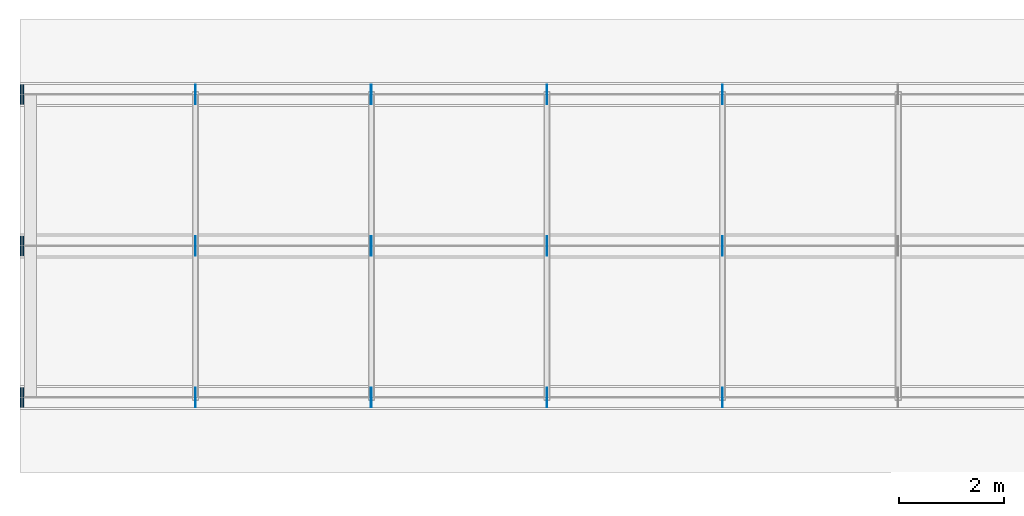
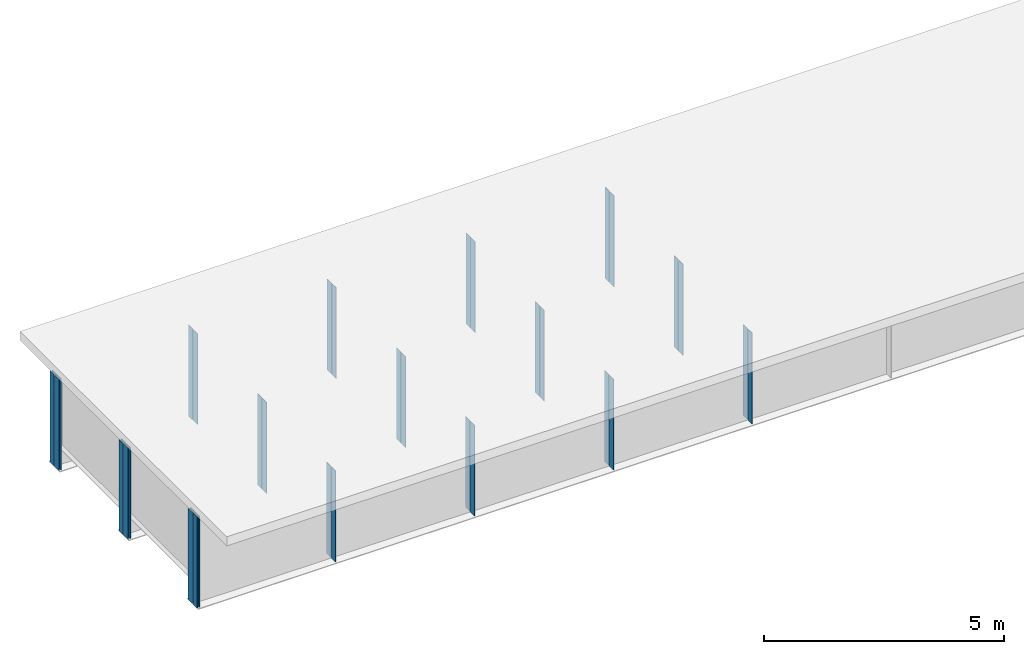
# One storey, part 2 of 12: 36 plates.
"""IFC4 building model written with IfcOpenShell, lengths in metres."""

import ifcopenshell
import ifcopenshell.guid

model = None  # the IFC model being written
_history = None  # IfcOwnerHistory: only IFC2X3 demands one
_inside = {}  # id of a spatial element -> (the spatial element, [elements in it])
_under = {}  # id of a project, library or spatial element -> (it, [spatial elements below it])
_declared = {}  # id of a project -> (the project, [libraries it declares])
_typed = {}  # id of a type object -> (the type object, [elements of that type])
_made_of = {}  # id of a material, layer set ... -> (it, [elements and type objects made of it])


def new_model(schema):
    """Start an empty IFC model of exactly this schema.

    Asked for "IFC4X3", IfcOpenShell would pick the latest addendum, in which some entities
    have other attributes; the version numbers below select the first issue.
    IFC2X3 requires an IfcOwnerHistory on every rooted entity: one is made here for all.
    """
    global model, _history
    if schema == "IFC4X3":
        model = ifcopenshell.file(schema_version=(4, 3, 0, 0))
    else:
        model = ifcopenshell.file(schema=schema)
    _inside.clear()
    _under.clear()
    _declared.clear()
    _typed.clear()
    _made_of.clear()
    _history = None
    if model.schema == "IFC2X3":
        org = make("IfcOrganization", Name="unknown")
        user = make(
            "IfcPersonAndOrganization",
            ThePerson=make("IfcPerson", FamilyName="unknown"),
            TheOrganization=org,
        )
        app = make(
            "IfcApplication",
            ApplicationDeveloper=org,
            Version="unknown",
            ApplicationFullName="unknown",
            ApplicationIdentifier="unknown",
        )
        _history = make(
            "IfcOwnerHistory",
            OwningUser=user,
            OwningApplication=app,
            ChangeAction="ADDED",
            CreationDate=0,
        )
    return model


def make(cls, **values):
    """One entity of the class cls with the attributes given. An attribute that is None is left unset."""
    return model.create_entity(
        cls, **{name: value for name, value in values.items() if value is not None}
    )


def rooted(cls, **values):
    """An entity with a GlobalId (a new one), such as an element, a storey or a relation."""
    return make(cls, GlobalId=ifcopenshell.guid.new(), OwnerHistory=_history, **values)


def si_unit(unit_type, name, prefix=None):
    """IfcSIUnit, for example si_unit("LENGTHUNIT", "METRE", prefix="MILLI")."""
    return make("IfcSIUnit", UnitType=unit_type, Prefix=prefix, Name=name)


def assignment(units):
    """IfcUnitAssignment: the units of a project."""
    return None if units is None else make("IfcUnitAssignment", Units=units)


def point(xyz):
    """IfcCartesianPoint."""
    return None if xyz is None else make("IfcCartesianPoint", Coordinates=xyz)


def direction(xyz):
    """IfcDirection."""
    return None if xyz is None else make("IfcDirection", DirectionRatios=xyz)


def frame(location, z_axis=None, x_axis=None):
    """IfcAxis2Placement3D, a coordinate frame: its origin and axes. An axis left out is left unset."""
    return make(
        "IfcAxis2Placement3D",
        Location=point(location),
        Axis=direction(z_axis),
        RefDirection=direction(x_axis),
    )


def frame_2d(location, x_axis=None):
    """IfcAxis2Placement2D, a coordinate frame in the plane: its origin and x axis."""
    return make(
        "IfcAxis2Placement2D", Location=point(location), RefDirection=direction(x_axis)
    )


def origin():
    """The frame at (0, 0, 0) with its axes left unset."""
    return frame((0.0, 0.0, 0.0))


def origin_with_axes():
    """The frame at (0, 0, 0) with the z axis (0, 0, 1) and the x axis (1, 0, 0) written out."""
    return frame((0.0, 0.0, 0.0), z_axis=(0.0, 0.0, 1.0), x_axis=(1.0, 0.0, 0.0))


def origin_2d_with_axis():
    """The frame at (0, 0) in the plane with the x axis (1, 0) written out."""
    return frame_2d((0.0, 0.0), x_axis=(1.0, 0.0))


def place(relative_to, where):
    """IfcLocalPlacement: puts the frame where relative to a parent placement (None: the world)."""
    return make(
        "IfcLocalPlacement", PlacementRelTo=relative_to, RelativePlacement=where
    )


def context(
    kind, dimensions, precision=None, world=None, true_north=None, identifier=None
):
    """IfcGeometricRepresentationContext, for example the 3D "Model" context."""
    return make(
        "IfcGeometricRepresentationContext",
        ContextIdentifier=identifier,
        ContextType=kind,
        CoordinateSpaceDimension=dimensions,
        Precision=precision,
        WorldCoordinateSystem=world,
        TrueNorth=true_north,
    )


def subcontext(parent, identifier, kind, view, scale=None):
    """IfcGeometricRepresentationSubContext, for example "Body" below "Model"."""
    return make(
        "IfcGeometricRepresentationSubContext",
        ContextIdentifier=identifier,
        ContextType=kind,
        ParentContext=parent,
        TargetScale=scale,
        TargetView=view,
    )


def project(units=None, contexts=None):
    """IfcProject with its units and contexts."""
    return rooted(
        "IfcProject",
        Name="project",
        RepresentationContexts=contexts,
        UnitsInContext=assignment(units),
    )


def spatial(cls, under=None, at=None, **own):
    """A site, building, storey or space (cls), placed at a placement, below another one or the project."""
    s = rooted(cls, ObjectPlacement=at, **own)
    if under is not None:
        _under.setdefault(under.id(), (under, []))[1].append(s)
    return s


def profile(cls, at=None, kind="AREA", **sizes):
    """A parametric profile (cls). Its sizes go by their IFC names, for example OverallWidth=200.0."""
    return make(cls, ProfileType=kind, Position=at, **sizes)


def rectangle(**sizes):
    """IfcRectangleProfileDef."""
    return profile("IfcRectangleProfileDef", **sizes)


def extrude(swept, where, along, depth):
    """IfcExtrudedAreaSolid: the profile swept, set in the frame where, extruded along a direction by depth."""
    return make(
        "IfcExtrudedAreaSolid",
        SweptArea=swept,
        Position=where,
        ExtrudedDirection=direction(along),
        Depth=depth,
    )


def shape(context_of_items, identifier, shape_type, items):
    """IfcShapeRepresentation: the items that make up one representation, for example the "Body"."""
    return make(
        "IfcShapeRepresentation",
        ContextOfItems=context_of_items,
        RepresentationIdentifier=identifier,
        RepresentationType=shape_type,
        Items=items,
    )


def made_of(thing, what):
    """Note that an element or type object is made of a material, layer set ...; save() writes the relation."""
    if what is not None:
        _made_of.setdefault(what.id(), (what, []))[1].append(thing)
    return thing


def element(
    cls,
    number,
    at=None,
    inside=None,
    cuts=None,
    type_object=None,
    material=None,
    context=None,
    identifier="Body",
    shape_type=None,
    held_by="IfcProductDefinitionShape",
    body=None,
    shapes=None,
    **own,
):
    """One element of the class cls, such as IfcWall. Its Tag is "e" and its number.

    at: its placement. inside: the storey or other place that contains it. cuts: it is an
    opening in that element (IfcRelVoidsElement). A single representation is given by context,
    identifier, shape_type and body (its items); several are given by shapes. held_by: the class
    of the entity that holds the representations. save() writes the other relations.
    """
    e = rooted(cls, Tag="e%d" % number, ObjectPlacement=at, **own)
    if body is not None:
        shapes = [shape(context, identifier, shape_type, body)]
    if shapes is not None:
        e.Representation = make(held_by, Representations=shapes)
    if inside is not None:
        _inside.setdefault(inside.id(), (inside, []))[1].append(e)
    if cuts is not None:
        rooted(
            "IfcRelVoidsElement", RelatingBuildingElement=cuts, RelatedOpeningElement=e
        )
    if type_object is not None:
        _typed.setdefault(type_object.id(), (type_object, []))[1].append(e)
    return made_of(e, material)


def aggregate(whole, parts):
    """IfcRelAggregates: a whole, such as a stair, and the parts it consists of."""
    return rooted("IfcRelAggregates", RelatingObject=whole, RelatedObjects=parts)


def save(model, path):
    """Write the relations noted so far, then the file.

    IfcRelAggregates (storeys below a building ...), IfcRelContainedInSpatialStructure (elements
    in a storey), IfcRelDefinesByType, IfcRelAssociatesMaterial and IfcRelDeclares: one each for
    every whole, place, type object, material and project.
    """
    for whole, parts in _under.values():
        aggregate(whole, parts)
    for where, things in _inside.values():
        rooted(
            "IfcRelContainedInSpatialStructure",
            RelatedElements=things,
            RelatingStructure=where,
        )
    for kind, things in _typed.values():
        rooted("IfcRelDefinesByType", RelatedObjects=things, RelatingType=kind)
    for what, things in _made_of.values():
        rooted("IfcRelAssociatesMaterial", RelatedObjects=things, RelatingMaterial=what)
    for by, libraries in _declared.values():
        rooted("IfcRelDeclares", RelatingContext=by, RelatedDefinitions=libraries)
    model.write(path)


model = new_model("IFC4")

# Units and contexts
model_context = context("Model", 3, precision=1e-05, world=origin())
body_context = subcontext(model_context, "Body", "Model", "MODEL_VIEW")
ifc_project = project(units=[si_unit("LENGTHUNIT", "METRE"), si_unit("AREAUNIT", "SQUARE_METRE"), si_unit("VOLUMEUNIT", "CUBIC_METRE"), si_unit("PLANEANGLEUNIT", "RADIAN")], contexts=[model_context])

# Site, building, storey
site_placement = place(None, origin_with_axes())
site = spatial("IfcSite", under=ifc_project, at=site_placement, Name="Default Site")
building_placement = place(site_placement, origin_with_axes())
building = spatial("IfcBuilding", under=site, at=building_placement, Name="Bridge Structure")
storey_placement = place(building_placement, origin_with_axes())
storey = spatial("IfcBuildingStorey", under=building, at=storey_placement, Name="Superstructure")

# Plates
for number, where, z_axis, x_axis, name in (
    (1, (3.333, -2.77625, -1.155), (0.0, 0.0, 1.0), (1.0, 0.0, 0.0), "Intermediate Stiffener 1"),
    (2, (3.333, -2.97375, -1.155), (0.0, 0.0, 1.0), (1.0, 0.0, 0.0), "Intermediate Stiffener 1"),
    (3, (6.666, -2.77625, -1.155), (0.0, 0.0, 1.0), (1.0, 0.0, 0.0), "Intermediate Stiffener 1"),
    (4, (6.666, -2.97375, -1.155), (0.0, 0.0, 1.0), (1.0, 0.0, 0.0), "Intermediate Stiffener 1"),
    (5, (9.999, -2.77625, -1.155), (0.0, 0.0, 1.0), (1.0, 0.0, 0.0), "Intermediate Stiffener 1"),
    (6, (9.999, -2.97375, -1.155), (0.0, 0.0, 1.0), (1.0, 0.0, 0.0), "Intermediate Stiffener 1"),
    (7, (13.332, -2.77625, -1.155), (0.0, 0.0, 1.0), (1.0, 0.0, 0.0), "Intermediate Stiffener 1"),
    (8, (13.332, -2.97375, -1.155), (0.0, 0.0, 1.0), (1.0, 0.0, 0.0), "Intermediate Stiffener 1"),
):
    element("IfcPlate", number, at=place(storey_placement, frame(where, z_axis=z_axis, x_axis=x_axis)), inside=storey, Name=name, context=body_context, shape_type="SweptSolid", body=[
        extrude(rectangle(XDim=0.012, YDim=0.1775, at=origin_2d_with_axis()), origin_with_axes(), (0.0, 0.0, 1.0), 2.31),
    ])
for number, where, z_axis, x_axis, name in (
    (9, (0.01, -2.77625, -1.155), (0.0, 0.0, 1.0), (1.0, 0.0, 0.0), "End Stiffener 1"),
    (10, (0.01, -2.97375, -1.155), (0.0, 0.0, 1.0), (1.0, 0.0, 0.0), "End Stiffener 1"),
    (11, (0.06, -2.77625, -1.155), (0.0, 0.0, 1.0), (1.0, 0.0, 0.0), "End Stiffener 1"),
    (12, (0.06, -2.97375, -1.155), (0.0, 0.0, 1.0), (1.0, 0.0, 0.0), "End Stiffener 1"),
):
    element("IfcPlate", number, at=place(storey_placement, frame(where, z_axis=z_axis, x_axis=x_axis)), inside=storey, Name=name, context=body_context, shape_type="SweptSolid", body=[
        extrude(rectangle(XDim=0.02, YDim=0.1775, at=origin_2d_with_axis()), origin_with_axes(), (0.0, 0.0, 1.0), 2.31),
    ])
for number, where, z_axis, x_axis, name in (
    (13, (3.333, 0.09875, -1.155), (0.0, 0.0, 1.0), (1.0, 0.0, 0.0), "Intermediate Stiffener 2"),
    (14, (3.333, -0.09875, -1.155), (0.0, 0.0, 1.0), (1.0, 0.0, 0.0), "Intermediate Stiffener 2"),
    (15, (6.666, 0.09875, -1.155), (0.0, 0.0, 1.0), (1.0, 0.0, 0.0), "Intermediate Stiffener 2"),
    (16, (6.666, -0.09875, -1.155), (0.0, 0.0, 1.0), (1.0, 0.0, 0.0), "Intermediate Stiffener 2"),
    (17, (9.999, 0.09875, -1.155), (0.0, 0.0, 1.0), (1.0, 0.0, 0.0), "Intermediate Stiffener 2"),
    (18, (9.999, -0.09875, -1.155), (0.0, 0.0, 1.0), (1.0, 0.0, 0.0), "Intermediate Stiffener 2"),
    (19, (13.332, 0.09875, -1.155), (0.0, 0.0, 1.0), (1.0, 0.0, 0.0), "Intermediate Stiffener 2"),
    (20, (13.332, -0.09875, -1.155), (0.0, 0.0, 1.0), (1.0, 0.0, 0.0), "Intermediate Stiffener 2"),
):
    element("IfcPlate", number, at=place(storey_placement, frame(where, z_axis=z_axis, x_axis=x_axis)), inside=storey, Name=name, context=body_context, shape_type="SweptSolid", body=[
        extrude(rectangle(XDim=0.012, YDim=0.1775, at=origin_2d_with_axis()), origin_with_axes(), (0.0, 0.0, 1.0), 2.31),
    ])
for number, where, z_axis, x_axis, name in (
    (21, (0.01, 0.09875, -1.155), (0.0, 0.0, 1.0), (1.0, 0.0, 0.0), "End Stiffener 2"),
    (22, (0.01, -0.09875, -1.155), (0.0, 0.0, 1.0), (1.0, 0.0, 0.0), "End Stiffener 2"),
    (23, (0.06, 0.09875, -1.155), (0.0, 0.0, 1.0), (1.0, 0.0, 0.0), "End Stiffener 2"),
    (24, (0.06, -0.09875, -1.155), (0.0, 0.0, 1.0), (1.0, 0.0, 0.0), "End Stiffener 2"),
):
    element("IfcPlate", number, at=place(storey_placement, frame(where, z_axis=z_axis, x_axis=x_axis)), inside=storey, Name=name, context=body_context, shape_type="SweptSolid", body=[
        extrude(rectangle(XDim=0.02, YDim=0.1775, at=origin_2d_with_axis()), origin_with_axes(), (0.0, 0.0, 1.0), 2.31),
    ])
for number, where, z_axis, x_axis, name in (
    (25, (3.333, 2.97375, -1.155), (0.0, 0.0, 1.0), (1.0, 0.0, 0.0), "Intermediate Stiffener 3"),
    (26, (3.333, 2.77625, -1.155), (0.0, 0.0, 1.0), (1.0, 0.0, 0.0), "Intermediate Stiffener 3"),
    (27, (6.666, 2.97375, -1.155), (0.0, 0.0, 1.0), (1.0, 0.0, 0.0), "Intermediate Stiffener 3"),
    (28, (6.666, 2.77625, -1.155), (0.0, 0.0, 1.0), (1.0, 0.0, 0.0), "Intermediate Stiffener 3"),
    (29, (9.999, 2.97375, -1.155), (0.0, 0.0, 1.0), (1.0, 0.0, 0.0), "Intermediate Stiffener 3"),
    (30, (9.999, 2.77625, -1.155), (0.0, 0.0, 1.0), (1.0, 0.0, 0.0), "Intermediate Stiffener 3"),
    (31, (13.332, 2.97375, -1.155), (0.0, 0.0, 1.0), (1.0, 0.0, 0.0), "Intermediate Stiffener 3"),
    (32, (13.332, 2.77625, -1.155), (0.0, 0.0, 1.0), (1.0, 0.0, 0.0), "Intermediate Stiffener 3"),
):
    element("IfcPlate", number, at=place(storey_placement, frame(where, z_axis=z_axis, x_axis=x_axis)), inside=storey, Name=name, context=body_context, shape_type="SweptSolid", body=[
        extrude(rectangle(XDim=0.012, YDim=0.1775, at=origin_2d_with_axis()), origin_with_axes(), (0.0, 0.0, 1.0), 2.31),
    ])
for number, where, z_axis, x_axis, name in (
    (33, (0.01, 2.97375, -1.155), (0.0, 0.0, 1.0), (1.0, 0.0, 0.0), "End Stiffener 3"),
    (34, (0.01, 2.77625, -1.155), (0.0, 0.0, 1.0), (1.0, 0.0, 0.0), "End Stiffener 3"),
    (35, (0.06, 2.97375, -1.155), (0.0, 0.0, 1.0), (1.0, 0.0, 0.0), "End Stiffener 3"),
    (36, (0.06, 2.77625, -1.155), (0.0, 0.0, 1.0), (1.0, 0.0, 0.0), "End Stiffener 3"),
):
    element("IfcPlate", number, at=place(storey_placement, frame(where, z_axis=z_axis, x_axis=x_axis)), inside=storey, Name=name, context=body_context, shape_type="SweptSolid", body=[
        extrude(rectangle(XDim=0.02, YDim=0.1775, at=origin_2d_with_axis()), origin_with_axes(), (0.0, 0.0, 1.0), 2.31),
    ])

save(model, "model.ifc")
